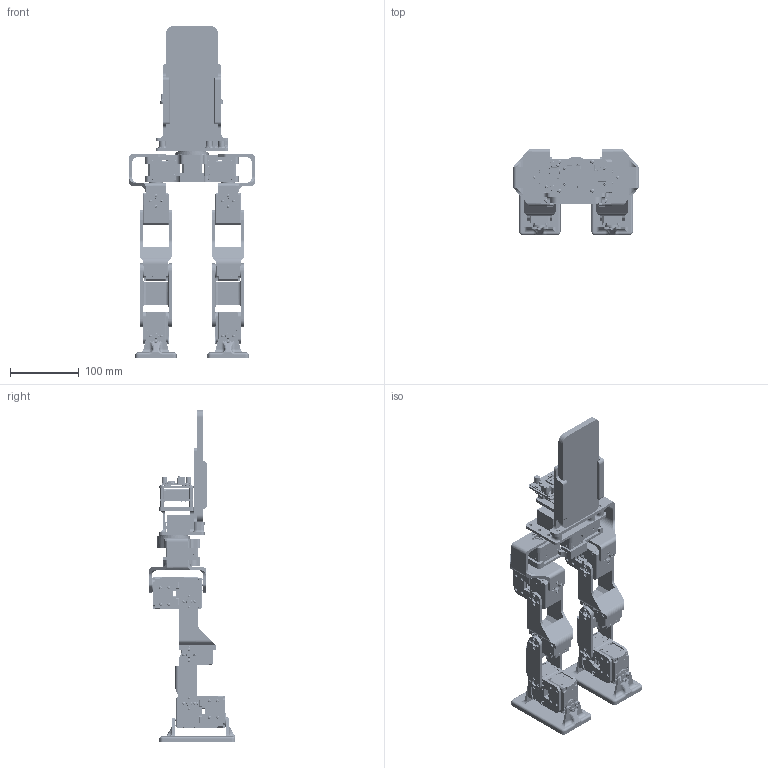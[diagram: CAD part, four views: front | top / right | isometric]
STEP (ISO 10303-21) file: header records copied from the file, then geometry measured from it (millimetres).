
FILE_DESCRIPTION(/* description */ ('STEP AP242 Edition 2','CAx-IF Rec.Pracs.---Representation and Presentation of Product Manufacturing Information (PMI)---4.0---2014-10-13','CAx-IF Rec.Pracs.---3D Tessellated Geometry---0.4---2014-09-14','2;1','CAx-IF Rec.Pracs.---User Defined Attributes---1.5---2016-08-15'),/* implementation_level */ '2;1');
FILE_NAME(/* name */ '6ad1eafad7d1385f2ab0ca88',/* time_stamp */ '2026-10-16T09:14:48Z',/* author */ (''),/* organization */ (''),/* preprocessor_version */ 'ST-DEVELOPER v20',/* originating_system */ 'ONSHAPE BY PTC INC, 1.222',/* authorisation */ ' ');
FILE_SCHEMA (('AP242_MANAGED_MODEL_BASED_3D_ENGINEERING_MIM_LF { 1 0 10303 442 3 1 4 }'));
Products named in the file (645): PhoneBot_Asm; 92000A012 M2x5 PanHead; M2.5x12-FlatHead; Part 13; Part 12; Part 17; Part 15; Part 11; Part 18; Part 14; Part 10; Part 19; Part 16; Part 9; Part 20; Part 8; Part 21; Part 7; Part 22; Part 6; Part 5; Part 23; Part 4; Part 24; Part 3; Part 25; Part 2; Part 26; Part 1; Part 27; Part 28; Part 29; M2x6-SocketHead; Foot; 5909K76-Washer; NONE; LowerLegLink; PelvisTop; UpperLegLink; HipBracket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
Assembly tree (1156 placements, depth 3):
  PhoneBot_Asm
    92000A012 M2x5 PanHead  x92
    M2.5x12-FlatHead  x28
    Part 13
    Part 12
    Part 17
    Part 15
    Part 11
    Part 18
    Part 14
    Part 10
    Part 19
    Part 16
    Part 9
    Part 20
    Part 8
    Part 21
    Part 7
    Part 22
    Part 6
    Part 5
    Part 23
    Part 4
    Part 24
    Part 3
    Part 25
    Part 2
    Part 26
    Part 1
    Part 27
    Part 28
    Part 29
    M2x6-SocketHead  x4
    Foot  x2
    5909K76-Washer  x2
    NONE  x4
    NONE  x4
    NONE  x4
    NONE  x4
    NONE  x4
    NONE  x4
    NONE  x4
    NONE  x4
    NONE  x4
    NONE  x4
    NONE  x4
    NONE  x4
    NONE  x4
    NONE  x4
    NONE  x4
    NONE  x4
    NONE  x4
    NONE  x4
    NONE  x4
    NONE  x4
    NONE  x4
    NONE  x4
    NONE  x4
    NONE  x4
    NONE  x4
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Bounding box: 183 x 125.15 x 482.41 mm (x, y, z)
Volume: 1303749.9 mm3; surface area: 577772.8 mm2
Topology: 882 solids, 1151 shells, 33609 faces, 88393 edges, 57488 vertices
Faces by surface type: plane 18394, cylinder 11433, cone 2064, torus 952, sphere 514, bspline 252
Full cylindrical faces by diameter (mm): 0.314 x4, 0.52 x3, 0.58 x2, 0.8 x2, 0.985 x2, 1 x44, 1.4 x32, 1.6 x26, 1.7 x84, 1.736 x1, 1.8 x88, 2 x325, 2.05 x104, 2.1 x208, 2.29 x1, 2.345 x8, 2.4 x6, 2.5 x253, 2.75 x4, 2.8 x40, 2.9 x64, 2.921 x2, 3 x39, 3.3 x10, 3.5 x13, 3.6 x6, 3.618 x6, 3.8 x4, 3.89 x6, 4 x8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
Entity records: 493966 total; most frequent: CARTESIAN_POINT 103081, DIRECTION 76257, ORIENTED_EDGE 76184, EDGE_CURVE 39055, LINE 26819, VECTOR 26819, VERTEX_POINT 26416, AXIS2_PLACEMENT_3D 24719
